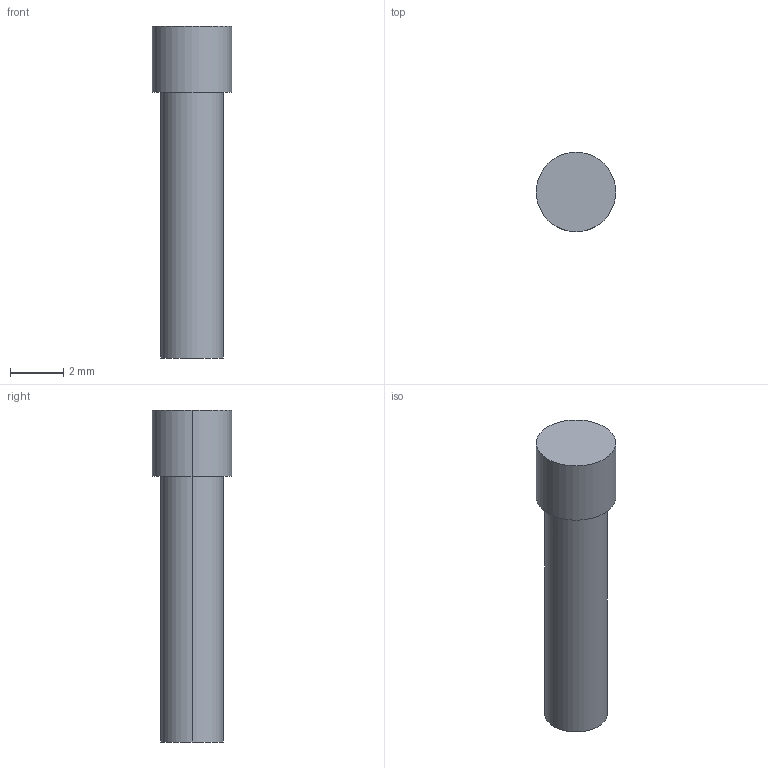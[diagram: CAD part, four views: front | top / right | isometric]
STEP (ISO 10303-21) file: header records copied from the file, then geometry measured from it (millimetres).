
FILE_DESCRIPTION (( 'STEP AP214' ), '1' );
FILE_NAME ('Bolzen_2.STEP', '2026-02-05T09:55:24', ( '' ), ( '' ), 'SwSTEP 2.0', 'SolidWorks 2025', '' );
FILE_SCHEMA (( 'AUTOMOTIVE_DESIGN' ));
Length unit declared in the file: metre
Products named in the file (1): Bolzen_2
Bounding box: 3 x 3 x 12.5 mm (x, y, z)
Volume: 61 mm3; surface area: 111.5 mm2
Topology: 1 solids, 1 shells, 7 faces, 12 edges, 8 vertices
Faces by surface type: cylinder 4, plane 3
Entity records: 197 total; most frequent: DIRECTION 36, CARTESIAN_POINT 28, ORIENTED_EDGE 24, AXIS2_PLACEMENT_3D 16, EDGE_CURVE 12, EDGE_LOOP 8, VERTEX_POINT 8, CIRCLE 8
